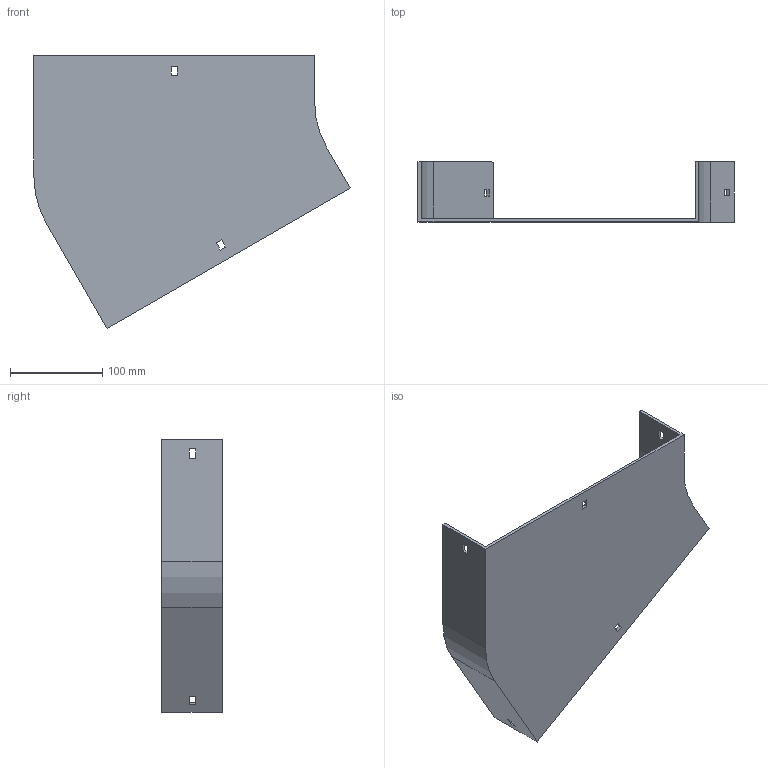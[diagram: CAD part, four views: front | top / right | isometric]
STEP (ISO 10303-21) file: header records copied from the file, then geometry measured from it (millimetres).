
FILE_DESCRIPTION (( 'STEP AP214' ), '1' );
FILE_NAME ('12B1H300.step', '2025-02-21T09:35:06', ( '' ), ( '' ), 'SwSTEP 2.0', 'SolidWorks 2023', '' );
FILE_SCHEMA (( 'AUTOMOTIVE_DESIGN' ));
Length unit declared in the file: millimetre
Products named in the file (1): 12B1H300
Bounding box: 342.4 x 65.5 x 295.3 mm (x, y, z)
Volume: 350176.2 mm3; surface area: 205426.4 mm2
Topology: 1 solids, 1 shells, 42 faces, 120 edges, 80 vertices
Faces by surface type: plane 38, cylinder 4
Entity records: 1399 total; most frequent: CARTESIAN_POINT 243, ORIENTED_EDGE 240, DIRECTION 214, EDGE_CURVE 120, LINE 112, VECTOR 112, VERTEX_POINT 80, EDGE_LOOP 54
